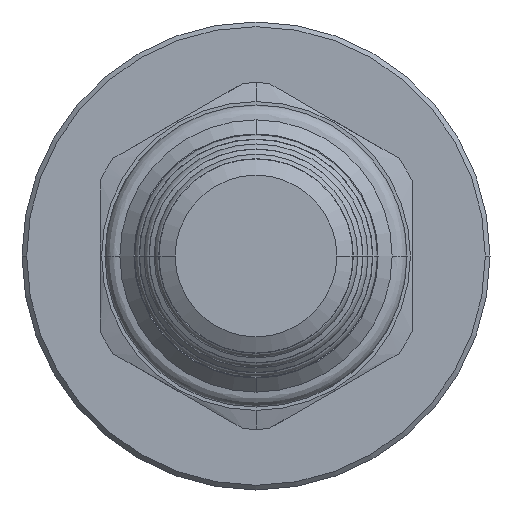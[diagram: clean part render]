
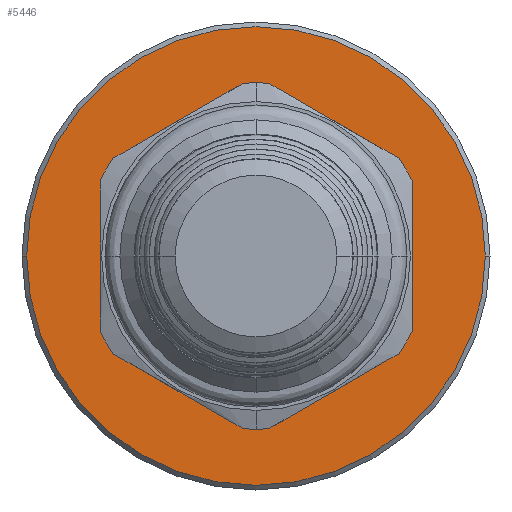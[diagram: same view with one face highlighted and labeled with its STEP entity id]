
A CAD part, front view. The second image highlights one B-rep face of the part: STEP entity #5446.
In plain terms, the highlighted planar face has unit normal (0, -1, 0).
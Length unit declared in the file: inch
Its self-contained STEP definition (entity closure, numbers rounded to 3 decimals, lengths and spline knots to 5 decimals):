
#1732=CARTESIAN_POINT('',(0.,2.12023,0.));
#1733=DIRECTION('',(0.,-1.,0.));
#1734=DIRECTION('',(-1.,0.,0.));
#1735=AXIS2_PLACEMENT_3D('',#1732,#1733,#1734);
#1737=CARTESIAN_POINT('',(0.,2.12023,0.));
#1738=DIRECTION('',(0.,-1.,0.));
#1739=DIRECTION('',(1.,0.,0.));
#1740=AXIS2_PLACEMENT_3D('',#1737,#1738,#1739);
#1742=CARTESIAN_POINT('',(0.,2.12023,0.));
#1743=DIRECTION('',(0.,-1.,0.));
#1744=DIRECTION('',(-1.,0.,0.));
#1745=AXIS2_PLACEMENT_3D('',#1742,#1743,#1744);
#1760=CARTESIAN_POINT('',(0.,2.12023,0.));
#1761=DIRECTION('',(0.,-1.,0.));
#1762=DIRECTION('',(1.,0.,0.));
#1763=AXIS2_PLACEMENT_3D('',#1760,#1761,#1762);
#2971=CARTESIAN_POINT('',(-0.375,2.12023,0.));
#2972=CARTESIAN_POINT('',(0.375,2.12023,0.));
#2973=VERTEX_POINT('',#2971);
#2974=VERTEX_POINT('',#2972);
#2975=CARTESIAN_POINT('',(0.735,2.12023,0.));
#2976=CARTESIAN_POINT('',(-0.735,2.12023,0.));
#2977=VERTEX_POINT('',#2975);
#2978=VERTEX_POINT('',#2976);
#5431=CARTESIAN_POINT('',(0.,2.12023,0.));
#5432=DIRECTION('',(0.,-1.,0.));
#5433=DIRECTION('',(-1.,0.,0.));
#5434=AXIS2_PLACEMENT_3D('',#5431,#5432,#5433);
#5435=PLANE('',#5434);
#5437=ORIENTED_EDGE('',*,*,#5436,.F.);
#5439=ORIENTED_EDGE('',*,*,#5438,.F.);
#5440=EDGE_LOOP('',(#5437,#5439));
#5441=FACE_OUTER_BOUND('',#5440,.F.);
#5442=ORIENTED_EDGE('',*,*,#5411,.T.);
#5443=ORIENTED_EDGE('',*,*,#5425,.T.);
#5444=EDGE_LOOP('',(#5442,#5443));
#5445=FACE_BOUND('',#5444,.F.);
#5446=ADVANCED_FACE('',(#5441,#5445),#5435,.T.);
#1736=CIRCLE('',#1735,0.375);
#1741=CIRCLE('',#1740,0.375);
#1746=CIRCLE('',#1745,0.735);
#1764=CIRCLE('',#1763,0.735);
#5411=EDGE_CURVE('',#2973,#2974,#1736,.T.);
#5425=EDGE_CURVE('',#2974,#2973,#1741,.T.);
#5436=EDGE_CURVE('',#2978,#2977,#1746,.T.);
#5438=EDGE_CURVE('',#2977,#2978,#1764,.T.);
